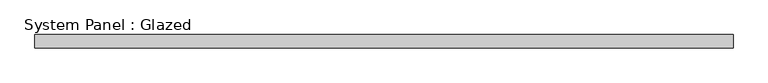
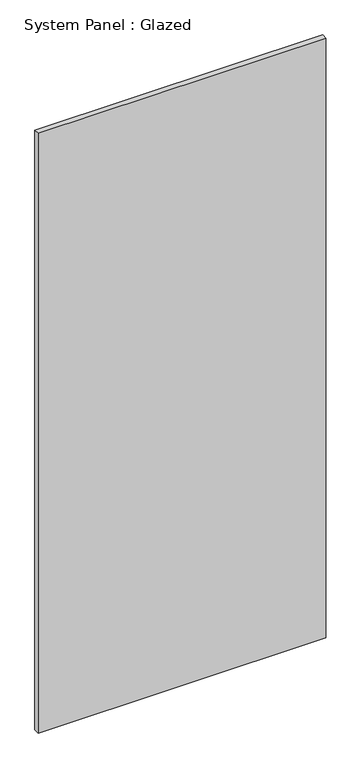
"""IFC4 building model written with IfcOpenShell, lengths in millimetres: plate geometry, System Panel : Glazed."""

from ifc_helpers import new_model, si_unit, origin, origin_with_axes, place, context, project, spatial, polyline, outline, extrude, source, transform, mapped, element, save


def system_panel_glazed_17a29eca(model_context):
    return source(origin(), model_context, "Body", "SweptSolid", [
        extrude(outline(polyline([(669.9250001, -44.45), (-669.9250001, -44.45), (-669.9250001, -19.05), (669.9250001, -19.05), (669.9250001, -44.45)])), origin_with_axes(), (0.0, 0.0, 1.0), 2952.75),
    ])


if __name__ == "__main__":
    model = new_model("IFC4")
    model_context = context("Model", 3, world=origin())
    ifc_project = project(units=[si_unit("LENGTHUNIT", "METRE", prefix="MILLI")], contexts=[model_context])
    site = spatial("IfcSite", under=ifc_project)
    building = spatial("IfcBuilding", under=site)
    placement = place(None, origin())
    system_panel_glazed_shape = system_panel_glazed_17a29eca(model_context)
    element("IfcPlate", 1, ObjectType="System Panel : Glazed", at=placement, inside=building, context=model_context, shape_type="MappedRepresentation", body=[
        mapped(system_panel_glazed_shape, transform((0.0, 0.0, 0.0), x_axis=(1.0, 0.0, 0.0), y_axis=(0.0, 1.0, 0.0), z_axis=(0.0, 0.0, 1.0))),
    ])
    save(model, "model.ifc")
